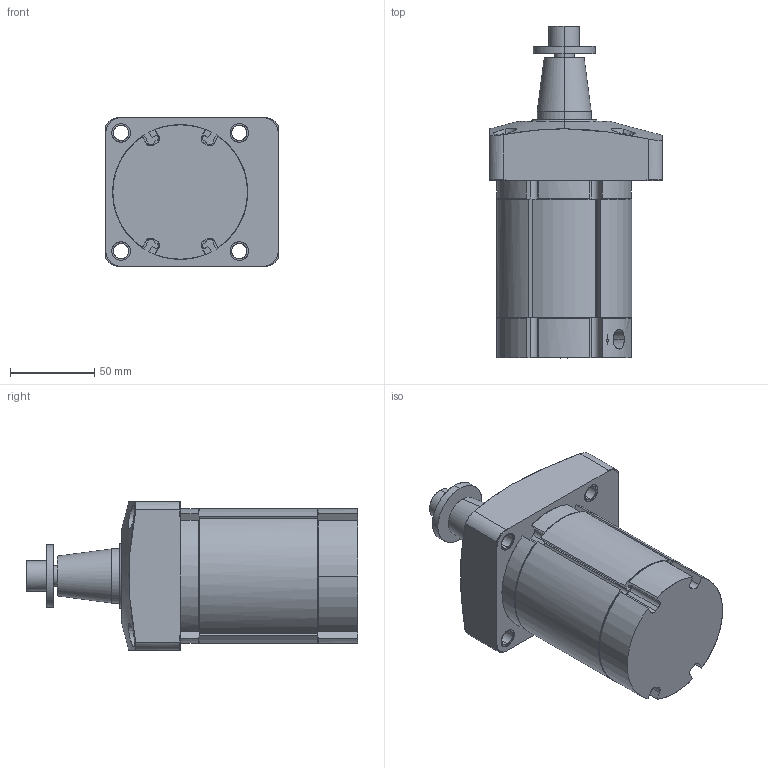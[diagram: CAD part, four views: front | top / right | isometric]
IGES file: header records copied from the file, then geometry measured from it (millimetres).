
Start section: Comment
Global section: file name: jmsh50-25.igs; native system:  By Spatial Corp.; preprocessor: XPlus GENERIC/IGES 3.0; author: Author; organization: Title; date: 20080526.130714; units: millimetre
Bounding box: 102 x 196.5 x 88 mm (x, y, z)
Surface area: 113702.5 mm2 (no closed solid volume)
Topology: 0 solids, 0 shells, 266 faces, 1346 edges, 1340 vertices
Faces by surface type: bspline 266
